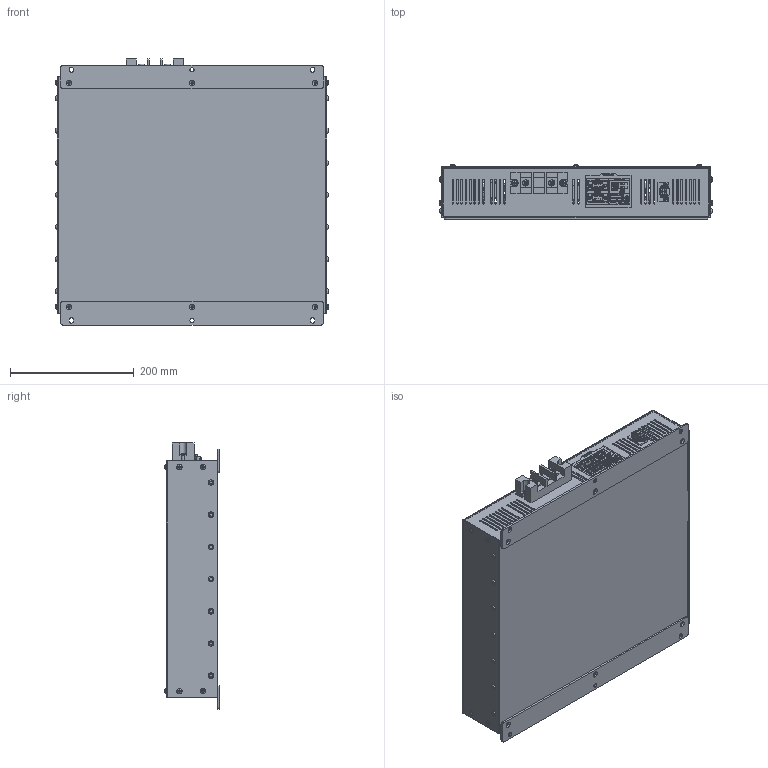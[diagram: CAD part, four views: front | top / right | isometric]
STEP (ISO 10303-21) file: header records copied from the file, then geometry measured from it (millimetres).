
FILE_DESCRIPTION(/* description */ ('','CAx-IF Rec.Pracs.---Representation and Presentation of Product Manufacturing Information (PMI)---4.0---2014-10-13'),/* implementation_level */ '2;1');
FILE_NAME(/* name */ 'H:\04_배터리_전기종\고부하용 배터리 케이스_3D\[NEW] W3COM 고객용\W3COM.stp',/* time_stamp */ '2021-12-10T16:56:21+09:00',/* author */ ('jjang'),/* organization */ ('TABOS'),/* preprocessor_version */ 'ST-DEVELOPER v18.1',/* originating_system */ 'Autodesk Inventor 2021',/* authorisation */ '');
FILE_SCHEMA (('AP242_MANAGED_MODEL_BASED_3D_ENGINEERING_MIM_LF { 1 0 10303 442 1 1 4 }'));
Products named in the file (3): W3COM; BRACKET; CASE ASSEMBLY
Assembly tree (3 placements, depth 2):
  W3COM
    BRACKET  x2
    CASE ASSEMBLY
Bounding box: 441.84 x 88.32 x 430 mm (x, y, z)
Volume: 858071.7 mm3; surface area: 1110980.4 mm2
Topology: 5 solids, 5 shells, 5545 faces, 15183 edges, 10066 vertices
Faces by surface type: plane 2726, bspline 1562, cylinder 1069, torus 128, cone 33, sphere 27
Full cylindrical faces by diameter (mm): 0.609 x1, 0.61 x27, 0.635 x9, 0.9 x6, 1.397 x9, 2.286 x9, 2.5 x2, 2.8 x6, 2.957 x4, 3 x2, 3.048 x4, 3.6 x8, 3.7 x2, 3.783 x2, 3.8 x28, 3.9 x2, 4 x9, 4.3 x12, 4.5 x12, 5 x13, 5.3 x28, 6 x1, 6.082 x1, 6.6 x2, 8.8 x14, 9.2 x2, 10 x8, 25.4 x3, 55.4 x3
Entity records: 212077 total; most frequent: CARTESIAN_POINT 74835, ORIENTED_EDGE 30104, DIRECTION 23007, EDGE_CURVE 15052, VERTEX_POINT 9945, LINE 8511, VECTOR 8511, AXIS2_PLACEMENT_3D 7248
